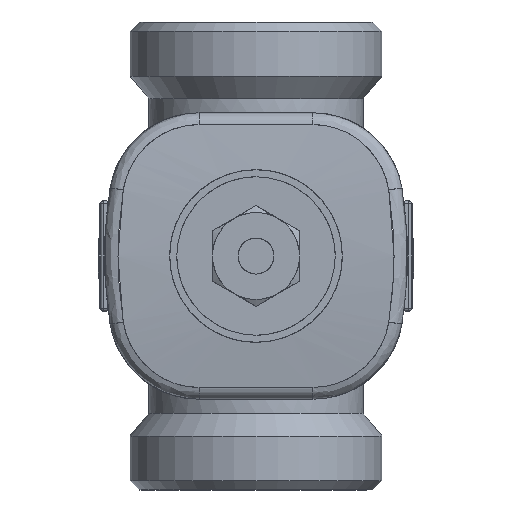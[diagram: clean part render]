
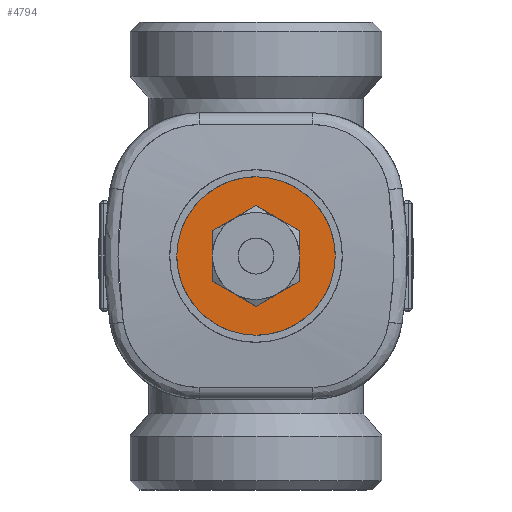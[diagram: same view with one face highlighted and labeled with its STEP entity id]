
A CAD part, front view. The second image highlights one B-rep face of the part: STEP entity #4794.
In plain terms, the highlighted planar face has unit normal (0, 1, 0).
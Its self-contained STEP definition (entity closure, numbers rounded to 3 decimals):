
#760=B_SPLINE_CURVE_WITH_KNOTS('',3,(#20165,#20166,#20167,#20168,#20169,
#20170,#20171,#20172,#20173,#20174),.UNSPECIFIED.,.F.,.F.,(4,2,2,2,4),(0.,
0.25,0.5,0.75,1.),.UNSPECIFIED.);
#761=B_SPLINE_CURVE_WITH_KNOTS('',3,(#20177,#20178,#20179,#20180,#20181,
#20182,#20183,#20184,#20185,#20186),.UNSPECIFIED.,.F.,.F.,(4,2,2,2,4),(0.,
0.25,0.5,0.75,1.),.UNSPECIFIED.);
#762=B_SPLINE_CURVE_WITH_KNOTS('',3,(#20188,#20189,#20190,#20191,#20192,
#20193,#20194,#20195,#20196,#20197),.UNSPECIFIED.,.F.,.F.,(4,2,2,2,4),(0.,
0.25,0.5,0.75,1.),.UNSPECIFIED.);
#763=B_SPLINE_CURVE_WITH_KNOTS('',3,(#20199,#20200,#20201,#20202,#20203,
#20204,#20205,#20206,#20207,#20208),.UNSPECIFIED.,.F.,.F.,(4,2,2,2,4),(0.,
0.25,0.5,0.75,1.),.UNSPECIFIED.);
#4794=ADVANCED_FACE('',(#5397),#5132,.T.);
#5132=PLANE('',#14871);
#5397=FACE_OUTER_BOUND('',#5763,.T.);
#5763=EDGE_LOOP('',(#6774,#6775,#6776,#6777));
#6774=ORIENTED_EDGE('',*,*,#10950,.T.);
#6775=ORIENTED_EDGE('',*,*,#10951,.T.);
#6776=ORIENTED_EDGE('',*,*,#10952,.T.);
#6777=ORIENTED_EDGE('',*,*,#10953,.T.);
#8862=VERTEX_POINT('',#20175);
#8863=VERTEX_POINT('',#20176);
#8864=VERTEX_POINT('',#20187);
#8865=VERTEX_POINT('',#20198);
#10950=EDGE_CURVE('',#8862,#8863,#760,.T.);
#10951=EDGE_CURVE('',#8863,#8864,#761,.T.);
#10952=EDGE_CURVE('',#8864,#8865,#762,.T.);
#10953=EDGE_CURVE('',#8865,#8862,#763,.T.);
#14871=AXIS2_PLACEMENT_3D('',#20209,#16272,#16273);
#16272=DIRECTION('',(0.,1.,0.));
#16273=DIRECTION('',(1.,0.,0.));
#20165=CARTESIAN_POINT('',(0.,-74.,87.));
#20166=CARTESIAN_POINT('',(2.609,-74.,87.));
#20167=CARTESIAN_POINT('',(5.379,-74.,86.532));
#20168=CARTESIAN_POINT('',(10.818,-74.,84.379));
#20169=CARTESIAN_POINT('',(13.41,-74.,82.702));
#20170=CARTESIAN_POINT('',(17.702,-74.,78.411));
#20171=CARTESIAN_POINT('',(19.39,-74.,75.79));
#20172=CARTESIAN_POINT('',(21.521,-74.,70.406));
#20173=CARTESIAN_POINT('',(22.,-74.,67.618));
#20174=CARTESIAN_POINT('',(22.,-74.,65.));
#20175=CARTESIAN_POINT('',(0.,-74.,87.));
#20176=CARTESIAN_POINT('',(22.,-74.,65.));
#20177=CARTESIAN_POINT('',(22.,-74.,65.));
#20178=CARTESIAN_POINT('',(22.,-74.,62.391));
#20179=CARTESIAN_POINT('',(21.532,-74.,59.621));
#20180=CARTESIAN_POINT('',(19.379,-74.,54.182));
#20181=CARTESIAN_POINT('',(17.702,-74.,51.59));
#20182=CARTESIAN_POINT('',(13.411,-74.,47.298));
#20183=CARTESIAN_POINT('',(10.79,-74.,45.61));
#20184=CARTESIAN_POINT('',(5.406,-74.,43.479));
#20185=CARTESIAN_POINT('',(2.618,-74.,43.));
#20186=CARTESIAN_POINT('',(0.,-74.,43.));
#20187=CARTESIAN_POINT('',(0.,-74.,43.));
#20188=CARTESIAN_POINT('',(0.,-74.,43.));
#20189=CARTESIAN_POINT('',(-2.609,-74.,43.));
#20190=CARTESIAN_POINT('',(-5.379,-74.,43.468));
#20191=CARTESIAN_POINT('',(-10.818,-74.,45.621));
#20192=CARTESIAN_POINT('',(-13.41,-74.,47.298));
#20193=CARTESIAN_POINT('',(-17.702,-74.,51.589));
#20194=CARTESIAN_POINT('',(-19.39,-74.,54.21));
#20195=CARTESIAN_POINT('',(-21.521,-74.,59.594));
#20196=CARTESIAN_POINT('',(-22.,-74.,62.382));
#20197=CARTESIAN_POINT('',(-22.,-74.,65.));
#20198=CARTESIAN_POINT('',(-22.,-74.,65.));
#20199=CARTESIAN_POINT('',(-22.,-74.,65.));
#20200=CARTESIAN_POINT('',(-22.,-74.,67.609));
#20201=CARTESIAN_POINT('',(-21.532,-74.,70.379));
#20202=CARTESIAN_POINT('',(-19.379,-74.,75.818));
#20203=CARTESIAN_POINT('',(-17.702,-74.,78.41));
#20204=CARTESIAN_POINT('',(-13.411,-74.,82.702));
#20205=CARTESIAN_POINT('',(-10.79,-74.,84.39));
#20206=CARTESIAN_POINT('',(-5.406,-74.,86.521));
#20207=CARTESIAN_POINT('',(-2.618,-74.,87.));
#20208=CARTESIAN_POINT('',(0.,-74.,87.));
#20209=CARTESIAN_POINT('',(-22.88,-74.,87.88));
